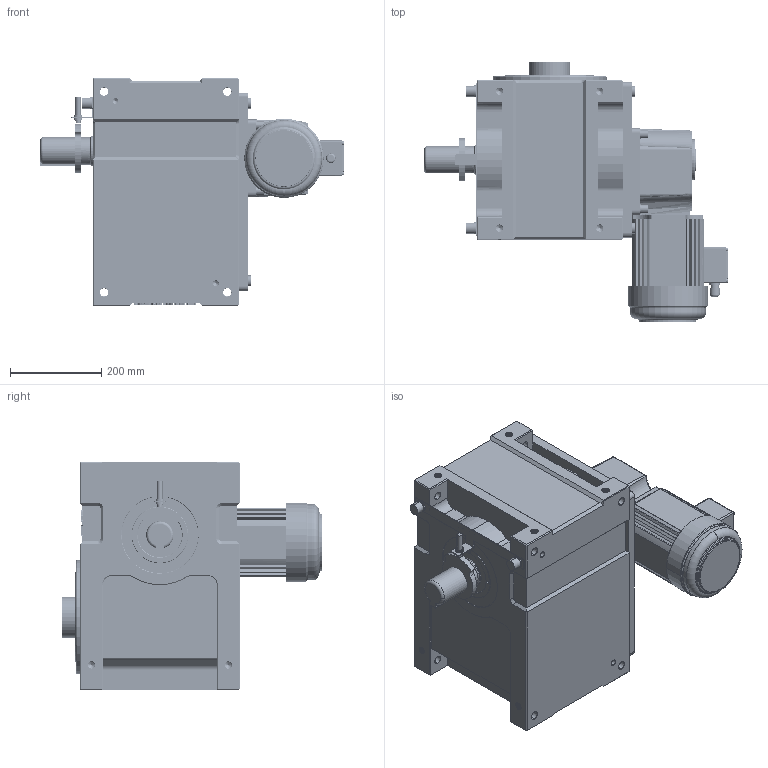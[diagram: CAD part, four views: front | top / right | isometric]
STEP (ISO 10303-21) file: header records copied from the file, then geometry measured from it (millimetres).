
FILE_DESCRIPTION (( 'STEP AP214' ), '1' );
FILE_NAME ('ER-RU180DF英锐凸轮分割器壳体法兰面销孔3D垂直直联式右侧ST35(电话15062628977)AA.STEP', '2022-09-19T04:24:45', ( '微软用户' ), ( '微软中国' ), 'SwSTEP 2.0', 'SolidWorks 2017', '' );
FILE_SCHEMA (( 'AUTOMOTIVE_DESIGN' ));
Length unit declared in the file: millimetre
Products named in the file (1): ER-RU180DF英锐凸轮分割器壳体法兰面销孔3D垂直直联式右侧ST35(电话15062628977)AA
Bounding box: 665.46 x 571 x 500 mm (x, y, z)
Volume: 62897088.7 mm3; surface area: 1666112.9 mm2
Topology: 3 solids, 9 shells, 2222 faces, 5793 edges, 3721 vertices
Faces by surface type: cylinder 901, plane 724, bspline 353, cone 203, torus 41
Entity records: 157409 total; most frequent: CARTESIAN_POINT 88348, ORIENTED_EDGE 11482, DIRECTION 8606, EDGE_CURVE 5741, VERTEX_POINT 3721, AXIS2_PLACEMENT_3D 2915, VECTOR 2776, LINE 2776
